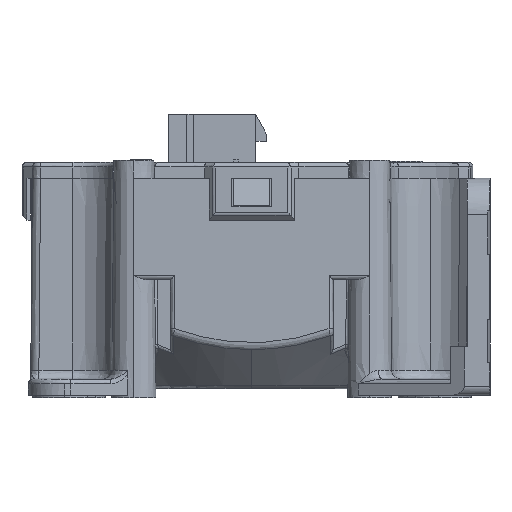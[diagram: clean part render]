
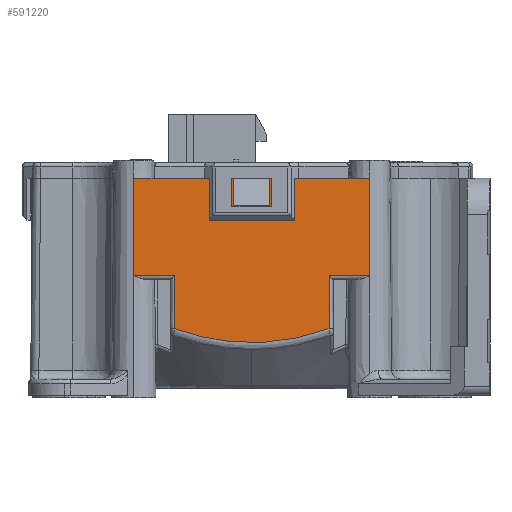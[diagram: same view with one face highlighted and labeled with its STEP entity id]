
A CAD part, left-side view. The second image highlights one B-rep face of the part: STEP entity #591220.
In plain terms, the highlighted planar face has unit normal (-1, 0, 0.009).
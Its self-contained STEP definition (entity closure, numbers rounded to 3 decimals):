
#151480=CARTESIAN_POINT('',(-23.484,-7.107,
1.427));
#151490=DIRECTION('',(-0.009,0.,-1.));
#151500=VECTOR('',#151490,265.057);
#151510=LINE('',#151480,#151500);
#151540=CARTESIAN_POINT('',(-23.391,-7.107,
12.075));
#151550=VERTEX_POINT('',#151540);
#189110=CARTESIAN_POINT('',(-23.484,-7.107,
1.333));
#189120=VERTEX_POINT('',#189110);
#189150=EDGE_CURVE('',#151550,#189120,#151510,.T.);
#203400=CARTESIAN_POINT('',(-23.484,18.907,
1.427));
#203410=DIRECTION('',(-0.009,0.,-1.));
#203420=VECTOR('',#203410,265.057);
#203430=LINE('',#203400,#203420);
#203440=CARTESIAN_POINT('',(-23.391,18.907,
12.075));
#203450=VERTEX_POINT('',#203440);
#203480=CARTESIAN_POINT('',(-23.484,18.907,
1.333));
#203490=VERTEX_POINT('',#203480);
#203500=EDGE_CURVE('',#203450,#203490,#203430,.T.);
#210600=CARTESIAN_POINT('',(-23.391,-13.91,
12.075));
#210610=DIRECTION('',(0.,1.,0.));
#210620=VECTOR('',#210610,1.);
#210630=LINE('',#210600,#210620);
#210640=CARTESIAN_POINT('',(-23.391,3.9,
12.075));
#210650=VERTEX_POINT('',#210640);
#210660=EDGE_CURVE('',#151550,#210650,#210630,.T.);
#210880=CARTESIAN_POINT('',(-23.391,7.9,
12.075));
#210890=VERTEX_POINT('',#210880);
#210920=EDGE_CURVE('',#210890,#203450,#210630,.T.);
#581800=CARTESIAN_POINT('',(-23.417,7.9,
9.075));
#581810=VERTEX_POINT('',#581800);
#581960=CARTESIAN_POINT('',(-23.417,3.9,
9.075));
#581970=VERTEX_POINT('',#581960);
#582000=CARTESIAN_POINT('',(-23.417,-13.91,
9.075));
#582010=DIRECTION('',(0.,1.,0.));
#582020=VECTOR('',#582010,1.);
#582030=LINE('',#582000,#582020);
#582040=EDGE_CURVE('',#581970,#581810,#582030,.T.);
#582140=CARTESIAN_POINT('',(-23.693,3.9,
-22.575));
#582150=DIRECTION('',(0.009,0.,1.));
#582160=VECTOR('',#582150,1.);
#582170=LINE('',#582140,#582160);
#582180=EDGE_CURVE('',#581970,#210650,#582170,.T.);
#582550=CARTESIAN_POINT('',(-23.693,7.9,
-22.575));
#582560=DIRECTION('',(-0.009,0.,-1.));
#582570=VECTOR('',#582560,1.);
#582580=LINE('',#582550,#582570);
#582590=EDGE_CURVE('',#210890,#581810,#582580,.T.);
#586900=CARTESIAN_POINT('',(-23.535,-2.622,
-4.514));
#586910=VERTEX_POINT('',#586900);
#589170=CARTESIAN_POINT('',(-23.484,-2.622,
1.333));
#589180=VERTEX_POINT('',#589170);
#589210=CARTESIAN_POINT('',(-23.484,-2.622,
1.333));
#589220=DIRECTION('',(0.,-1.,0.));
#589230=VECTOR('',#589220,0.897);
#589240=LINE('',#589210,#589230);
#589250=EDGE_CURVE('',#589180,#189120,#589240,.T.);
#590040=CARTESIAN_POINT('',(-23.484,-2.622,
1.333));
#590050=DIRECTION('',(-0.009,0.,-1.));
#590060=VECTOR('',#590050,0.897);
#590070=LINE('',#590040,#590060);
#590080=EDGE_CURVE('',#589180,#586910,#590070,.T.);
#590310=CARTESIAN_POINT('',(-23.413,-7.107,
9.493));
#590320=DIRECTION('',(-1.,0.,0.009));
#590330=DIRECTION('',(0.009,0.,1.));
#590340=AXIS2_PLACEMENT_3D('',#590310,#590320,#590330);
#590350=PLANE('',#590340);
#590360=ORIENTED_EDGE('',*,*,#590080,.F.);
#590370=CARTESIAN_POINT('',(-23.535,-2.622,
-4.514));
#590380=CARTESIAN_POINT('',(-23.536,-2.565,
-4.534));
#590390=CARTESIAN_POINT('',(-23.536,-2.508,
-4.554));
#590400=CARTESIAN_POINT('',(-23.536,-2.452,
-4.574));
#590410=CARTESIAN_POINT('',(-23.536,-2.392,
-4.595));
#590420=CARTESIAN_POINT('',(-23.536,-2.332,
-4.615));
#590430=CARTESIAN_POINT('',(-23.538,-1.832,
-4.784));
#590440=CARTESIAN_POINT('',(-23.539,-1.39,
-4.924));
#590450=CARTESIAN_POINT('',(-23.541,-0.722,
-5.117));
#590460=CARTESIAN_POINT('',(-23.541,-0.498,
-5.179));
#590470=CARTESIAN_POINT('',(-23.542,-0.05,
-5.297));
#590480=CARTESIAN_POINT('',(-23.543,0.175,
-5.353));
#590490=CARTESIAN_POINT('',(-23.544,0.626,
-5.459));
#590500=CARTESIAN_POINT('',(-23.544,0.852,
-5.509));
#590510=CARTESIAN_POINT('',(-23.545,1.305,
-5.603));
#590520=CARTESIAN_POINT('',(-23.545,1.532,
-5.647));
#590530=CARTESIAN_POINT('',(-23.546,1.987,
-5.729));
#590540=CARTESIAN_POINT('',(-23.546,2.215,
-5.767));
#590550=CARTESIAN_POINT('',(-23.547,2.672,
-5.836));
#590560=CARTESIAN_POINT('',(-23.547,2.902,
-5.867));
#590570=CARTESIAN_POINT('',(-23.548,3.361,
-5.923));
#590580=CARTESIAN_POINT('',(-23.548,3.591,
-5.947));
#590590=CARTESIAN_POINT('',(-23.548,4.051,
-5.989));
#590600=CARTESIAN_POINT('',(-23.548,4.282,
-6.007));
#590610=CARTESIAN_POINT('',(-23.549,4.743,
-6.035));
#590620=CARTESIAN_POINT('',(-23.549,4.974,
-6.046));
#590630=CARTESIAN_POINT('',(-23.549,5.436,
-6.06));
#590640=CARTESIAN_POINT('',(-23.549,5.667,
-6.063));
#590650=CARTESIAN_POINT('',(-23.549,6.13,
-6.063));
#590660=CARTESIAN_POINT('',(-23.549,6.361,
-6.06));
#590670=CARTESIAN_POINT('',(-23.549,6.823,
-6.046));
#590680=CARTESIAN_POINT('',(-23.549,7.054,
-6.035));
#590690=CARTESIAN_POINT('',(-23.548,7.516,
-6.007));
#590700=CARTESIAN_POINT('',(-23.548,7.746,
-5.989));
#590710=CARTESIAN_POINT('',(-23.548,8.207,
-5.947));
#590720=CARTESIAN_POINT('',(-23.548,8.437,
-5.923));
#590730=CARTESIAN_POINT('',(-23.547,8.896,
-5.867));
#590740=CARTESIAN_POINT('',(-23.547,9.125,
-5.836));
#590750=CARTESIAN_POINT('',(-23.546,9.582,
-5.767));
#590760=CARTESIAN_POINT('',(-23.546,9.811,
-5.73));
#590770=CARTESIAN_POINT('',(-23.545,10.266,
-5.648));
#590780=CARTESIAN_POINT('',(-23.545,10.493,
-5.604));
#590790=CARTESIAN_POINT('',(-23.544,10.946,
-5.51));
#590800=CARTESIAN_POINT('',(-23.544,11.171,
-5.46));
#590810=CARTESIAN_POINT('',(-23.543,11.622,
-5.353));
#590820=CARTESIAN_POINT('',(-23.542,11.847,
-5.297));
#590830=CARTESIAN_POINT('',(-23.541,12.296,
-5.179));
#590840=CARTESIAN_POINT('',(-23.541,12.519,
-5.118));
#590850=CARTESIAN_POINT('',(-23.539,13.187,
-4.925));
#590860=CARTESIAN_POINT('',(-23.538,13.63,
-4.785));
#590870=CARTESIAN_POINT('',(-23.536,14.13,
-4.616));
#590880=CARTESIAN_POINT('',(-23.536,14.191,
-4.595));
#590890=CARTESIAN_POINT('',(-23.536,14.252,
-4.574));
#590900=CARTESIAN_POINT('',(-23.536,14.308,
-4.554));
#590910=CARTESIAN_POINT('',(-23.536,14.365,
-4.534));
#590920=CARTESIAN_POINT('',(-23.535,14.422,
-4.514));
#590930=B_SPLINE_CURVE_WITH_KNOTS('',3,(#590370,#590380,#590390,#590400,
#590410,#590420,#590430,#590440,#590450,#590460,#590470,#590480,#590490,
#590500,#590510,#590520,#590530,#590540,#590550,#590560,#590570,#590580,
#590590,#590600,#590610,#590620,#590630,#590640,#590650,#590660,#590670,
#590680,#590690,#590700,#590710,#590720,#590730,#590740,#590750,#590760,
#590770,#590780,#590790,#590800,#590810,#590820,#590830,#590840,#590850,
#590860,#590870,#590880,#590890,#590900,#590910,#590920),.UNSPECIFIED.,
.F.,.F.,(4,3,2,2,2,2,2,2,2,2,2,2,2,2,2,2,2,2,2,2,2,2,2,2,2,3,4),(
51.807,51.918,52.133,53.704,54.491,
55.277,56.062,56.847,57.633,58.419,
59.205,59.991,60.777,61.563,62.349,
63.135,63.921,64.707,65.493,66.278,
67.064,67.849,68.635,69.421,70.993,
71.21,71.321),.UNSPECIFIED.);
#590940=CARTESIAN_POINT('',(-23.535,14.422,
-4.514));
#590950=VERTEX_POINT('',#590940);
#590960=EDGE_CURVE('',#586910,#590950,#590930,.T.);
#590970=ORIENTED_EDGE('',*,*,#590960,.F.);
#590980=CARTESIAN_POINT('',(-23.484,14.422,
1.333));
#590990=DIRECTION('',(-0.009,0.,-1.));
#591000=VECTOR('',#590990,0.897);
#591010=LINE('',#590980,#591000);
#591020=CARTESIAN_POINT('',(-23.484,14.422,
1.333));
#591030=VERTEX_POINT('',#591020);
#591040=EDGE_CURVE('',#591030,#590950,#591010,.T.);
#591050=ORIENTED_EDGE('',*,*,#591040,.T.);
#591060=CARTESIAN_POINT('',(-23.484,18.907,
1.333));
#591070=DIRECTION('',(0.,-1.,0.));
#591080=VECTOR('',#591070,0.897);
#591090=LINE('',#591060,#591080);
#591100=EDGE_CURVE('',#203490,#591030,#591090,.T.);
#591110=ORIENTED_EDGE('',*,*,#591100,.T.);
#591120=ORIENTED_EDGE('',*,*,#203500,.T.);
#591130=ORIENTED_EDGE('',*,*,#210920,.T.);
#591140=ORIENTED_EDGE('',*,*,#582590,.F.);
#591150=ORIENTED_EDGE('',*,*,#582040,.T.);
#591160=ORIENTED_EDGE('',*,*,#582180,.F.);
#591170=ORIENTED_EDGE('',*,*,#210660,.T.);
#591180=ORIENTED_EDGE('',*,*,#189150,.F.);
#591190=ORIENTED_EDGE('',*,*,#589250,.T.);
#591200=EDGE_LOOP('',(#591190,#591180,#591170,#591160,#591150,#591140,
#591130,#591120,#591110,#591050,#590970,#590360));
#591210=FACE_OUTER_BOUND('',#591200,.T.);
#591220=ADVANCED_FACE('',(#591210),#590350,.T.);
